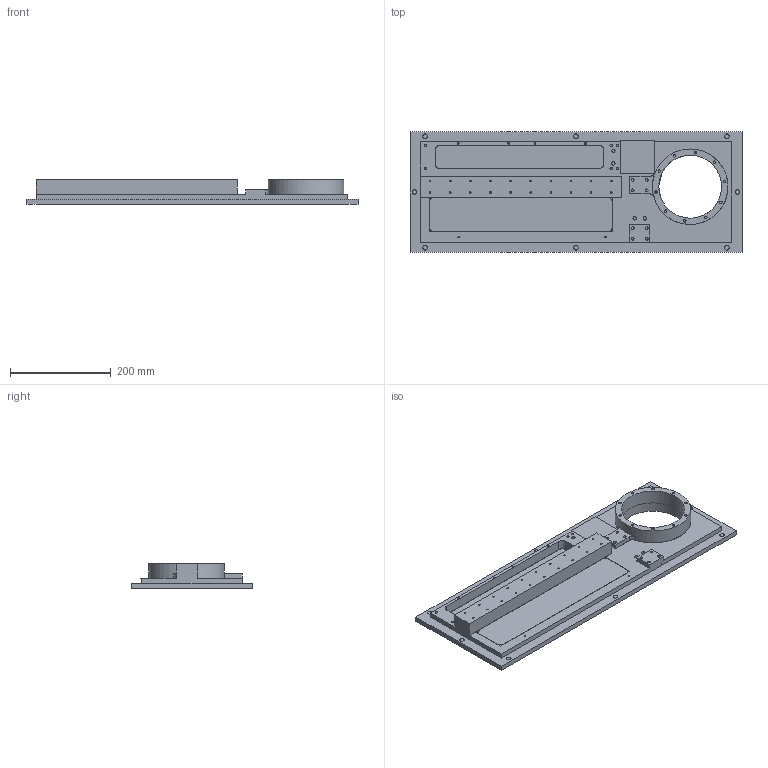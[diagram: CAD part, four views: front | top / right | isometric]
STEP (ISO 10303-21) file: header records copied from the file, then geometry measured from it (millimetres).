
FILE_DESCRIPTION(('TFLEX Exchange Step'),'2;1');
FILE_NAME('X2\041F043B043804420430\X0\ основания.stp', '2026-07-06T15:08:28+03:00',('KUser'),('Unknown organisation'),'TFLEX Exchange 2024.6','T-FLEX CAD','Unknown authorisation');
FILE_SCHEMA( ('AP203_CONFIGURATION_CONTROLLED_3D_DESIGN_OF_MECHANICAL_PARTS_AND_ASSEMBLIES_MIM_LF') );
Length unit declared in the file: millimetre
Products named in the file (59): 3D Узел_1; 3D Узел_2; Линейный массив_1(#1,+,+); Линейный массив_1(#2,+,+); Линейный массив_1(#1,0,+); Линейный массив_1(#2,0,+); Линейный массив_1(#1,1,+); Линейный массив_1(#2,1,+); Линейный массив_1(#1,2,+); Линейный массив_1(#2,2,+); Линейный массив_1(#1,3,+); Линейный массив_1(#2,3,+); Линейный массив_1(#1,4,+); Линейный массив_1(#2,4,+); Линейный массив_1(#1,5,+); Линейный массив_1(#2,5,+); Линейный массив_1(#1,6,+); Линейный массив_1(#2,6,+); Линейный массив_1(#1,7,+); Линейный массив_1(#2,7,+); Линейный массив_1(#1,8,+); Линейный массив_1(#2,8,+); 3D Узел_3; Круговой массив_1(#1,+,+); Круговой массив_1(#1,0,+); Круговой массив_1(#1,1,+); Круговой массив_1(#1,2,+); Круговой массив_1(#1,3,+); Круговой массив_1(#1,4,+); Круговой массив_1(#1,5,+); Круговой массив_1(#1,6,+); Круговой массив_1(#1,7,+); Круговой массив_1(#1,8,+); 3D Узел_4; 3D Узел_5; 3D Узел_6; 3D Узел_7; 3D Узел_8; 3D Узел_9; 3D Узел_10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
Assembly tree (58 placements, depth 3):
  Плита основания
    0
      3D Узел_1
      3D Узел_2
      Линейный массив_1(#1,+,+)
      Линейный массив_1(#2,+,+)
      Линейный массив_1(#1,0,+)
      Линейный массив_1(#2,0,+)
      Линейный массив_1(#1,1,+)
      Линейный массив_1(#2,1,+)
      Линейный массив_1(#1,2,+)
      Линейный массив_1(#2,2,+)
      Линейный массив_1(#1,3,+)
      Линейный массив_1(#2,3,+)
      Линейный массив_1(#1,4,+)
      Линейный массив_1(#2,4,+)
      Линейный массив_1(#1,5,+)
      Линейный массив_1(#2,5,+)
      Линейный массив_1(#1,6,+)
      Линейный массив_1(#2,6,+)
      Линейный массив_1(#1,7,+)
      Линейный массив_1(#2,7,+)
      Линейный массив_1(#1,8,+)
      Линейный массив_1(#2,8,+)
      3D Узел_3
      Круговой массив_1(#1,+,+)
      Круговой массив_1(#1,0,+)
      Круговой массив_1(#1,1,+)
      Круговой массив_1(#1,2,+)
      Круговой массив_1(#1,3,+)
      Круговой массив_1(#1,4,+)
      Круговой массив_1(#1,5,+)
      Круговой массив_1(#1,6,+)
      Круговой массив_1(#1,7,+)
      Круговой массив_1(#1,8,+)
      3D Узел_4
      3D Узел_5
      3D Узел_6
      3D Узел_7
      3D Узел_8
      3D Узел_9
      3D Узел_10
      3D Узел_11
      3D Узел_12
      3D Узел_13
      3D Узел_14
      3D Узел_15
      3D Узел_16
      3D Узел_17
      3D Узел_18
      3D Узел_19
      3D Узел_20
      3D Узел_21
      3D Узел_22
      3D Узел_23
      3D Узел_24
      3D Узел_25
      3D Узел_26
      3D Узел_27
Bounding box: 660 x 240 x 49 mm (x, y, z)
Volume: 2316471.8 mm3; surface area: 567642.8 mm2
Topology: 1 solids, 27 shells, 207 faces, 532 edges, 418 vertices
Faces by surface type: bspline 207
Entity records: 12250 total; most frequent: CARTESIAN_POINT 7830, ORIENTED_EDGE 923, EDGE_CURVE 491, VERTEX_POINT 362, EDGE_LOOP 308, FACE_BOUND 308, B_SPLINE_CURVE_WITH_KNOTS 278, B_SPLINE_SURFACE_WITH_KNOTS 207
